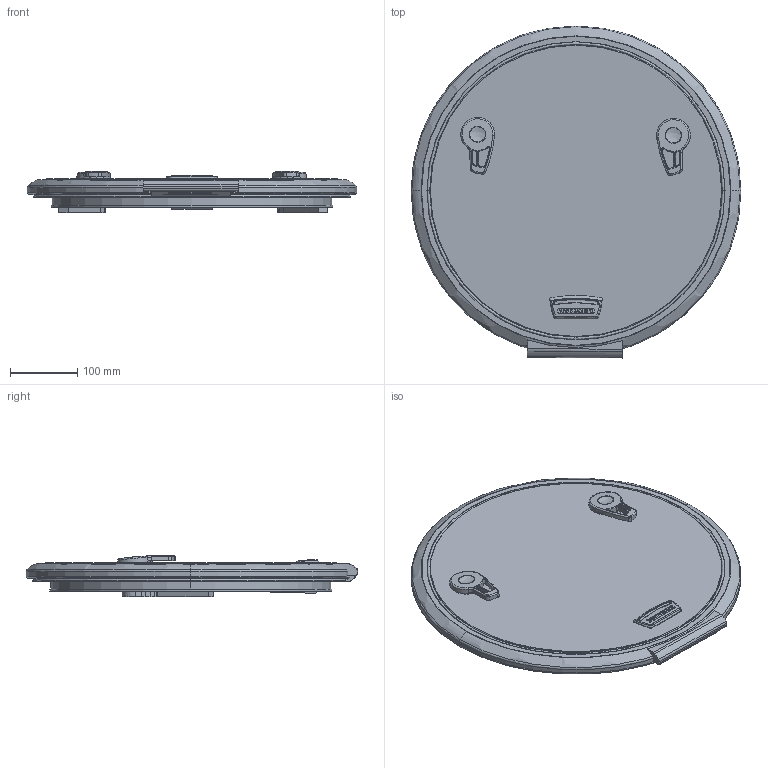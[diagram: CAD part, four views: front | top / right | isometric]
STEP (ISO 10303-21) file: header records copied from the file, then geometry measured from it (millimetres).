
FILE_DESCRIPTION((''),'2;1');
FILE_NAME('LEWMAR-HATCH-LOWPRO-18_ASM','2008-02-05T',('skennedy'),(''),'PRO/ENGINEER BY PARAMETRIC TECHNOLOGY CORPORATION, 2007030','PRO/ENGINEER BY PARAMETRIC TECHNOLOGY CORPORATION, 2007030','');
FILE_SCHEMA(('CONFIG_CONTROL_DESIGN'));
Length unit declared in the file: millimetre
Products named in the file (7): FRAME_18; 3591853X; HANDLE_LP_RHS; HANDLE_LP_LHS; HINGE_LEVER_LP; CADLIB_SZ_18_LP_HINGE_SW0001; LEWMAR-HATCH-LOWPRO-18_ASM
Assembly tree (6 placements, depth 2):
  LEWMAR-HATCH-LOWPRO-18_ASM
    FRAME_18
    3591853X
    HANDLE_LP_RHS
    HANDLE_LP_LHS
    HINGE_LEVER_LP
    CADLIB_SZ_18_LP_HINGE_SW0001
Bounding box: 490 x 493.51 x 61.17 mm (x, y, z)
Volume: 2983584.3 mm3; surface area: 697130.8 mm2
Topology: 6 solids, 6 shells, 689 faces, 1785 edges, 1124 vertices
Faces by surface type: plane 261, bspline 192, cylinder 131, cone 35, torus 33, extrusion 23, sphere 14
Entity records: 33029 total; most frequent: CARTESIAN_POINT 17631, ORIENTED_EDGE 3546, DIRECTION 2556, EDGE_CURVE 1773, VERTEX_POINT 1124, AXIS2_PLACEMENT_3D 939, EDGE_LOOP 747, FACE_OUTER_BOUND 689
